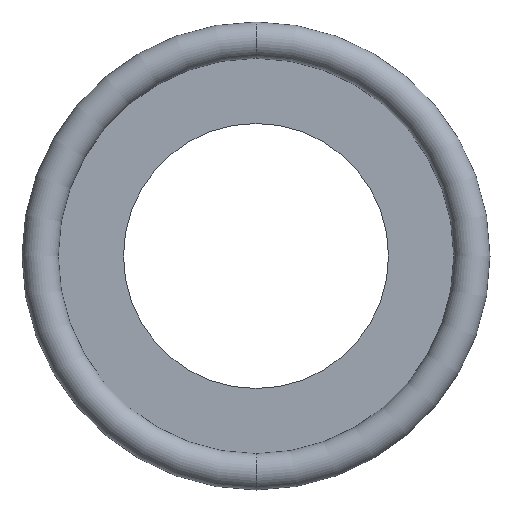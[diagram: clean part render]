
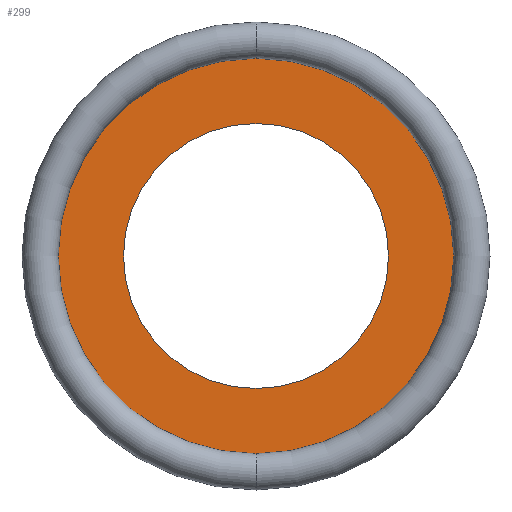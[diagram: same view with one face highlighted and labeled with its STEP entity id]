
A CAD part, front view. The second image highlights one B-rep face of the part: STEP entity #299.
In plain terms, the highlighted planar face has unit normal (0, -1, 0).
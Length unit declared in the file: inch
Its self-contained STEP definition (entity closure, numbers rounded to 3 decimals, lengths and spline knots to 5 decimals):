
#7 = ORIENTED_EDGE ( 'NONE', *, *, #135, .T. ) ;
#8 = DIRECTION ( 'NONE',  ( 0., -1., 0. ) ) ;
#10 = ORIENTED_EDGE ( 'NONE', *, *, #305, .F. ) ;
#14 = VERTEX_POINT ( 'NONE', #188 ) ;
#21 = CIRCLE ( 'NONE', #321, 0.2265 ) ;
#37 = PLANE ( 'NONE',  #332 ) ;
#42 = DIRECTION ( 'NONE',  ( 0., -1., 0. ) ) ;
#45 = FACE_OUTER_BOUND ( 'NONE', #165, .T. ) ;
#59 = CIRCLE ( 'NONE', #296, 0.338 ) ;
#70 = CARTESIAN_POINT ( 'NONE',  ( 0., -0.03125, 0.2265 ) ) ;
#73 = CARTESIAN_POINT ( 'NONE',  ( 0., -0.03125, 0. ) ) ;
#75 = ORIENTED_EDGE ( 'NONE', *, *, #263, .T. ) ;
#101 = DIRECTION ( 'NONE',  ( 0., -1., 0. ) ) ;
#114 = CARTESIAN_POINT ( 'NONE',  ( 0., -0.03125, 0. ) ) ;
#134 = CARTESIAN_POINT ( 'NONE',  ( 0., -0.03125, -0.2265 ) ) ;
#135 = EDGE_CURVE ( 'NONE', #352, #14, #145, .T. ) ;
#142 = DIRECTION ( 'NONE',  ( 0., 0., -1. ) ) ;
#143 = DIRECTION ( 'NONE',  ( 0., 0., -1. ) ) ;
#145 = CIRCLE ( 'NONE', #155, 0.338 ) ;
#146 = AXIS2_PLACEMENT_3D ( 'NONE', #212, #42, #142 ) ;
#149 = VERTEX_POINT ( 'NONE', #134 ) ;
#152 = VERTEX_POINT ( 'NONE', #70 ) ;
#155 = AXIS2_PLACEMENT_3D ( 'NONE', #396, #101, #359 ) ;
#165 = EDGE_LOOP ( 'NONE', ( #75, #7 ) ) ;
#188 = CARTESIAN_POINT ( 'NONE',  ( 0., -0.03125, -0.338 ) ) ;
#208 = EDGE_LOOP ( 'NONE', ( #323, #10 ) ) ;
#212 = CARTESIAN_POINT ( 'NONE',  ( 0., -0.03125, 0. ) ) ;
#219 = CIRCLE ( 'NONE', #146, 0.2265 ) ;
#243 = CARTESIAN_POINT ( 'NONE',  ( 0.2265, -0.03125, 0. ) ) ;
#263 = EDGE_CURVE ( 'NONE', #14, #352, #59, .T. ) ;
#270 = DIRECTION ( 'NONE',  ( 0., 0., -1. ) ) ;
#296 = AXIS2_PLACEMENT_3D ( 'NONE', #73, #8, #270 ) ;
#299 = ADVANCED_FACE ( 'NONE', ( #45, #409 ), #37, .T. ) ;
#305 = EDGE_CURVE ( 'NONE', #152, #149, #21, .T. ) ;
#310 = DIRECTION ( 'NONE',  ( 0., 0., -1. ) ) ;
#321 = AXIS2_PLACEMENT_3D ( 'NONE', #114, #412, #310 ) ;
#323 = ORIENTED_EDGE ( 'NONE', *, *, #326, .F. ) ;
#326 = EDGE_CURVE ( 'NONE', #149, #152, #219, .T. ) ;
#332 = AXIS2_PLACEMENT_3D ( 'NONE', #243, #341, #143 ) ;
#341 = DIRECTION ( 'NONE',  ( 0., -1., 0. ) ) ;
#352 = VERTEX_POINT ( 'NONE', #404 ) ;
#359 = DIRECTION ( 'NONE',  ( 0., 0., -1. ) ) ;
#396 = CARTESIAN_POINT ( 'NONE',  ( 0., -0.03125, 0. ) ) ;
#404 = CARTESIAN_POINT ( 'NONE',  ( 0., -0.03125, 0.338 ) ) ;
#409 = FACE_BOUND ( 'NONE', #208, .T. ) ;
#412 = DIRECTION ( 'NONE',  ( 0., -1., 0. ) ) ;
